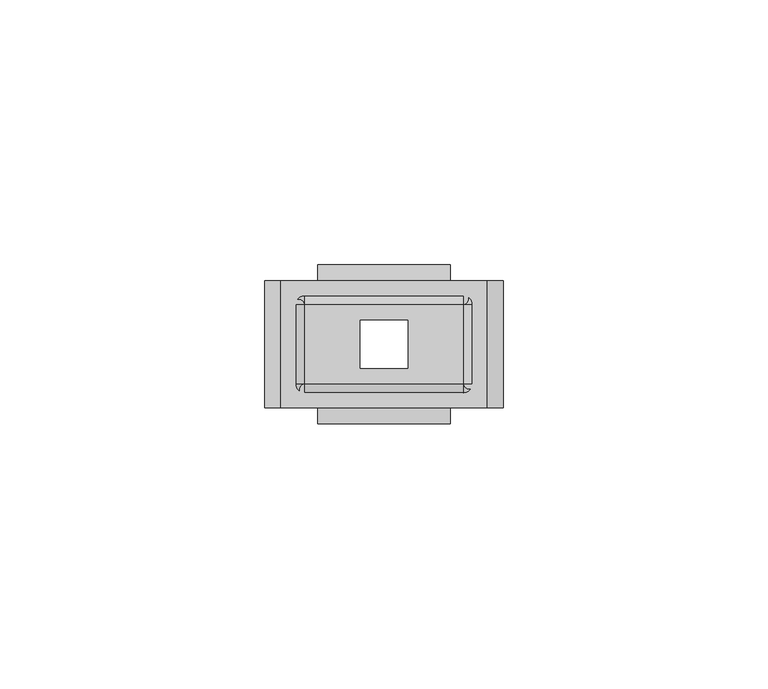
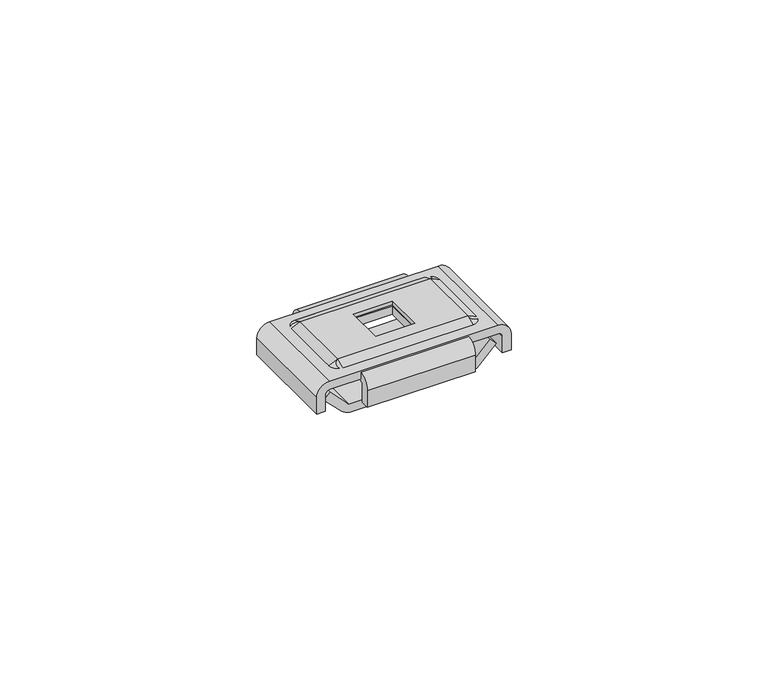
"""IFC4 building model written with IfcOpenShell, lengths in millimetres: cable carrier fitting geometry, BAKS_Mesh ceiling hanger_UKDSPC : UKDSCP."""

from ifc_helpers import new_model, si_unit, point, frame, frame_2d, origin, place, context, project, spatial, polyline, circle_curve, trimmed, segment, composite_curve, outline, extrude, source, transform, mapped, element, save
from ifc_brep_helpers import plane_surface, cylinder_surface, revolved_surface, spline_surface, advanced_brep


def cable_carrier_fitting_433d2681(model_context):
    return source(origin(), model_context, "Body", "SolidModel", [
        advanced_brep(
        [(-14.1715729, -10.5, -6.363961), (-18.554405, -10.5, -1.9811289), (-19.9681218, -10.5, -3.3948456), (-15.8781657, -10.5, -7.4848017), (-13.9928025, -10.5, -8.363961), (13.4626954, -10.5, -8.363961), (15.8781657, -10.5, -7.4848017), (19.9681218, -10.5, -3.3948456), (18.5543172, -10.5, -1.981041), (14.1713972, -10.5, -6.363961), (-14.1715729, 10.3284271, -6.363961), (14.1713972, 10.3284271, -6.363961), (18.5543172, 10.3284271, -1.981041), (19.9681218, 10.3284271, -3.3948456), (15.8781657, 10.3284271, -7.4848017), (13.4626954, 10.3284271, -8.363961), (-13.9928025, 10.3284271, -8.363961), (-15.8781657, 10.3284271, -7.4848017), (-19.9681218, 10.3284271, -3.3948456), (-18.554405, 10.3284271, -1.9811289), (4.5, 4.5, -8.363961), (-4.5, 4.5, -8.363961), (-4.5, -4.5, -8.363961), (4.5, -4.5, -8.363961), (-4.5, 4.5, -6.363961), (4.5, 4.5, -6.363961), (4.5, -4.5, -6.363961), (-4.5, -4.5, -6.363961)],
        [
            (0, 1),
            (1, 2),
            (2, 3),
            (3, 4, circle_curve(frame((-13.7277489, -10.5, -5.334385), z_axis=(0.0, -1.0, 0.0), x_axis=(-1.0, 0.0, 0.0)), 3.0411485)),
            (4, 5),
            (5, 6, circle_curve(frame((13.7277489, -10.5, -5.334385), z_axis=(0.0, -1.0, 0.0), x_axis=(1.0, 0.0, 0.0)), 3.0411485)),
            (6, 7),
            (7, 8),
            (8, 9),
            (9, 0),
            (10, 11),
            (11, 12),
            (12, 13),
            (13, 14),
            (14, 15, circle_curve(frame((13.7277489, 10.3284271, -5.334385), z_axis=(0.0, 1.0, 0.0), x_axis=(1.0, 0.0, 0.0)), 3.0411485)),
            (15, 16),
            (16, 17, circle_curve(frame((-13.7277489, 10.3284271, -5.334385), z_axis=(0.0, 1.0, 0.0), x_axis=(-1.0, 0.0, 0.0)), 3.0411485)),
            (17, 18),
            (18, 19),
            (19, 10),
            (0, 10),
            (19, 1),
            (18, 2),
            (17, 3),
            (16, 4),
            (15, 5),
            (20, 21),
            (21, 22),
            (22, 23),
            (23, 20),
            (14, 6),
            (13, 7),
            (12, 8),
            (11, 9),
            (24, 25),
            (25, 26),
            (26, 27),
            (27, 24),
            (20, 25),
            (24, 21),
            (27, 22),
            (26, 23),
        ],
        [
            plane_surface(frame((-18.5355339, -10.5, -2.0), z_axis=(0.0, -1.0000000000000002, 0.0), x_axis=(-0.7071067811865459, 0.0, 0.7071067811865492))),
            plane_surface(frame((-18.5355339, 10.3284271, -2.0), z_axis=(0.0, 1.0000000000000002, 0.0), x_axis=(0.7071067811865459, 0.0, -0.7071067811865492))),
            plane_surface(frame((-14.1715729, -10.5, -6.363961), z_axis=(0.7071067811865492, 0.0, 0.7071067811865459), x_axis=(0.0, 1.0, 0.0))),
            plane_surface(frame((-18.554405, -10.5, -1.9811289), z_axis=(-0.7071067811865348, 0.0, 0.7071067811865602), x_axis=(0.0, 1.0, 0.0))),
            plane_surface(frame((-19.9681218, -10.5, -3.3948456), z_axis=(-0.7071067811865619, 0.0, -0.7071067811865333), x_axis=(0.0, 1.0, 0.0))),
            cylinder_surface(frame((-13.7277489, 10.3284271, -5.334385), z_axis=(0.0, -1.0, 0.0), x_axis=(-1.0, 0.0, 0.0)), 3.0411485),
            plane_surface(frame((-13.9928025, -10.5, -8.363961), z_axis=(0.0, 0.0, -1.0), x_axis=(0.0, 1.0, 0.0))),
            cylinder_surface(frame((13.7277489, 10.3284271, -5.334385), z_axis=(0.0, -1.0, 0.0), x_axis=(1.0, 0.0, 0.0)), 3.0411485),
            plane_surface(frame((15.8781657, -10.5, -7.4848017), z_axis=(0.7071067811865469, 0.0, -0.7071067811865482), x_axis=(0.0, 1.0, 0.0))),
            plane_surface(frame((19.9681218, -10.5, -3.3948456), z_axis=(0.7071067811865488, 0.0, 0.7071067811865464), x_axis=(0.0, 1.0, 0.0))),
            plane_surface(frame((18.5543172, -10.5, -1.981041), z_axis=(-0.7071067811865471, 0.0, 0.7071067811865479), x_axis=(0.0, 1.0, 0.0))),
            plane_surface(frame((14.1713972, -10.5, -6.363961), z_axis=(0.0, 0.0, 1.0), x_axis=(0.0, 1.0, 0.0))),
            plane_surface(frame((4.5, 4.5, 10.0), z_axis=(0.0, -1.0, 0.0), x_axis=(0.0, 0.0, -1.0))),
            plane_surface(frame((-4.5, 4.5, 10.0), z_axis=(1.0, 0.0, 0.0), x_axis=(0.0, 0.0, -1.0))),
            plane_surface(frame((-4.5, -4.5, 10.0), z_axis=(0.0, 1.0, 0.0), x_axis=(0.0, 0.0, -1.0))),
            plane_surface(frame((4.5, -4.5, 10.0), z_axis=(-1.0, 0.0, 0.0), x_axis=(0.0, 0.0, -1.0))),
        ],
        [
            (0, [[1, 2, 3, 4, 5, 6, 7, 8, 9, 10]]),
            (1, [[11, 12, 13, 14, 15, 16, 17, 18, 19, 20]]),
            (2, [[-1, 21, -20, 22]]),
            (3, [[-2, -22, -19, 23]]),
            (4, [[-3, -23, -18, 24]]),
            (5, [[-4, -24, -17, 25]]),
            (6, [[-5, -25, -16, 26], [27, 28, 29, 30]]),
            (7, [[-6, -26, -15, 31]]),
            (8, [[-7, -31, -14, 32]]),
            (9, [[-8, -32, -13, 33]]),
            (10, [[-9, -33, -12, 34]]),
            (11, [[-10, -34, -11, -21], [35, 36, 37, 38]]),
            (12, [[39, -35, 40, -27]]),
            (13, [[-40, -38, 41, -28]]),
            (14, [[-41, -37, 42, -29]]),
            (15, [[-39, -30, -42, -36]]),
        ],
    ),
        advanced_brep(
        [(12.3284271, 5.5, -8.363961), (9.5, 8.3284271, -8.363961), (-9.5, 8.3284271, -8.363961), (-12.3284271, 5.5, -8.363961), (-12.3284271, -5.5, -8.363961), (-9.5, -8.3284271, -8.363961), (9.5, -8.3284271, -8.363961), (12.3284271, -5.5, -8.363961), (-4.5, 4.5, -8.363961), (4.5, 4.5, -8.363961), (4.5, -4.5, -8.363961), (-4.5, -4.5, -8.363961), (9.4715729, 5.4715729, -9.563961), (9.4715729, -5.4715729, -9.563961), (-9.4715729, -5.4715729, -9.563961), (-9.4715729, 5.4715729, -9.563961), (4.5, 4.5, -9.563961), (-4.5, 4.5, -9.563961), (-4.5, -4.5, -9.563961), (4.5, -4.5, -9.563961)],
        [
            (0, 1, circle_curve(frame((9.5, 5.5, -8.363961), z_axis=(0.0, 0.0, 1.0), x_axis=(1.0, 0.0, 0.0)), 2.8284271)),
            (1, 2),
            (2, 3, circle_curve(frame((-9.5, 5.5, -8.363961), z_axis=(0.0, 0.0, 1.0), x_axis=(1.0, 0.0, 0.0)), 2.8284271)),
            (3, 4),
            (4, 5, circle_curve(frame((-9.5, -5.5, -8.363961), z_axis=(0.0, 0.0, 1.0), x_axis=(1.0, 0.0, 0.0)), 2.8284271)),
            (5, 6),
            (6, 7, circle_curve(frame((9.5, -5.5, -8.363961), z_axis=(0.0, 0.0, 1.0), x_axis=(1.0, 0.0, 0.0)), 2.8284271)),
            (7, 0),
            (8, 9),
            (9, 10),
            (10, 11),
            (11, 8),
            (12, 13),
            (13, 14),
            (14, 15),
            (15, 12),
            (16, 17),
            (17, 18),
            (18, 19),
            (19, 16),
            (0, 12),
            (12, 1),
            (15, 2),
            (15, 3),
            (14, 4),
            (14, 5),
            (13, 6),
            (13, 7),
            (16, 9),
            (8, 17),
            (11, 18),
            (10, 19),
        ],
        [
            plane_surface(frame((0.0, 0.0, -8.363961), z_axis=(0.0, 0.0, 1.0), x_axis=(-1.0, 0.0, 0.0))),
            plane_surface(frame((0.0, 0.0, -9.563961), z_axis=(0.0, 0.0, -1.0), x_axis=(-1.0, 0.0, 0.0))),
            spline_surface(2, 1, [[(9.4715729, 5.4715729, -9.563961), (12.3284271, 5.5, -8.363961)], [(9.4715729, 5.4715729, -9.563961), (12.3284271, 8.3284271, -8.363961)], [(9.4715729, 5.4715729, -9.563961), (9.5, 8.3284271, -8.363961)]], [3, 3], [2, 2], [0.0, 1.0], [0.0, 1.0], weights=[[1.0, 1.0], [0.7071067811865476, 0.7071067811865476], [1.0, 1.0]]),
            plane_surface(frame((0.0, 5.4715729, -9.563961), z_axis=(0.0, 0.38726573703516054, -0.9219681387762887), x_axis=(-1.0, 0.0, 0.0))),
            spline_surface(2, 1, [[(-9.4715729, 5.4715729, -9.563961), (-9.5, 8.3284271, -8.363961)], [(-9.4715729, 5.4715729, -9.563961), (-12.3284271, 8.3284271, -8.363961)], [(-9.4715729, 5.4715729, -9.563961), (-12.3284271, 5.5, -8.363961)]], [3, 3], [2, 2], [0.0, 1.0], [0.0, 1.0], weights=[[1.0, 1.0], [0.7071067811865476, 0.7071067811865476], [1.0, 1.0]]),
            plane_surface(frame((-9.4715729, 0.0, -9.563961), z_axis=(-0.38726573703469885, 0.0, -0.9219681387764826), x_axis=(0.0, -1.0, 0.0))),
            spline_surface(2, 1, [[(-9.4715729, -5.4715729, -9.563961), (-12.3284271, -5.5, -8.363961)], [(-9.4715729, -5.4715729, -9.563961), (-12.3284271, -8.3284271, -8.363961)], [(-9.4715729, -5.4715729, -9.563961), (-9.5, -8.3284271, -8.363961)]], [3, 3], [2, 2], [0.0, 1.0], [0.0, 1.0], weights=[[1.0, 1.0], [0.7071067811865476, 0.7071067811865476], [1.0, 1.0]]),
            plane_surface(frame((0.0, -5.4715729, -9.563961), z_axis=(0.0, -0.3872657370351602, -0.9219681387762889), x_axis=(1.0, 0.0, 0.0))),
            spline_surface(2, 1, [[(9.4715729, -5.4715729, -9.563961), (9.5, -8.3284271, -8.363961)], [(9.4715729, -5.4715729, -9.563961), (12.3284271, -8.3284271, -8.363961)], [(9.4715729, -5.4715729, -9.563961), (12.3284271, -5.5, -8.363961)]], [3, 3], [2, 2], [0.0, 1.0], [0.0, 1.0], weights=[[1.0, 1.0], [0.7071067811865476, 0.7071067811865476], [1.0, 1.0]]),
            plane_surface(frame((9.4715729, 0.0, -9.563961), z_axis=(0.38726573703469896, 0.0, -0.9219681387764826), x_axis=(0.0, 1.0, 0.0))),
            plane_surface(frame((4.5, 4.5, 10.0), z_axis=(0.0, -1.0, 0.0), x_axis=(0.0, 0.0, -1.0))),
            plane_surface(frame((-4.5, 4.5, 10.0), z_axis=(1.0, 0.0, 0.0), x_axis=(0.0, 0.0, -1.0))),
            plane_surface(frame((-4.5, -4.5, 10.0), z_axis=(0.0, 1.0, 0.0), x_axis=(0.0, 0.0, -1.0))),
            plane_surface(frame((4.5, -4.5, 10.0), z_axis=(-1.0, 0.0, 0.0), x_axis=(0.0, 0.0, -1.0))),
        ],
        [
            (0, [[1, 2, 3, 4, 5, 6, 7, 8], [9, 10, 11, 12]]),
            (1, [[13, 14, 15, 16], [17, 18, 19, 20]]),
            (2, [[-1, 21, 22]]),
            (3, [[-2, -22, -16, 23]]),
            (4, [[-3, -23, 24]]),
            (5, [[-4, -24, -15, 25]]),
            (6, [[-5, -25, 26]]),
            (7, [[-6, -26, -14, 27]]),
            (8, [[-7, -27, 28]]),
            (9, [[-8, -28, -13, -21]]),
            (10, [[29, -9, 30, -17]]),
            (11, [[-30, -12, 31, -18]]),
            (12, [[-31, -11, 32, -19]]),
            (13, [[-29, -20, -32, -10]]),
        ],
    ),
        advanced_brep(
        [(-22.5, -12.0, -1.0), (-22.5, -12.0, -5.0), (-20.5, -12.0, -5.0), (-20.5, -12.0, -1.0), (-19.5, -12.0, 0.0), (19.5, -12.0, 0.0), (20.5, -12.0, -1.0), (20.5, -12.0, -5.0), (22.5, -12.0, -5.0), (22.5, -12.0, -1.0), (19.5, -12.0, 2.0), (-19.5, -12.0, 2.0), (-22.5, 12.0, -1.0), (-19.5, 12.0, 2.0), (19.5, 12.0, 2.0), (22.5, 12.0, -1.0), (22.5, 12.0, -5.0), (20.5, 12.0, -5.0), (20.5, 12.0, -1.0), (19.5, 12.0, 0.0), (-19.5, 12.0, 0.0), (-20.5, 12.0, -1.0), (-20.5, 12.0, -5.0), (-22.5, 12.0, -5.0), (4.5, 4.5, 0.0), (-4.5, 4.5, 0.0), (-4.5, -4.5, 0.0), (4.5, -4.5, 0.0), (-4.5, 4.5, 2.0), (4.5, 4.5, 2.0), (4.5, -4.5, 2.0), (-4.5, -4.5, 2.0)],
        [
            (0, 1),
            (1, 2),
            (2, 3),
            (3, 4, circle_curve(frame((-19.5, -12.0, -1.0), z_axis=(0.0, 1.0, 0.0), x_axis=(-1.0, 0.0, 0.0)), 1.0)),
            (4, 5),
            (5, 6, circle_curve(frame((19.5, -12.0, -1.0), z_axis=(0.0, 1.0, 0.0), x_axis=(1.0, 0.0, 0.0)), 1.0)),
            (6, 7),
            (7, 8),
            (8, 9),
            (9, 10, circle_curve(frame((19.5, -12.0, -1.0), z_axis=(0.0, -1.0, 0.0), x_axis=(-1.0, 0.0, 0.0)), 3.0)),
            (10, 11),
            (11, 0, circle_curve(frame((-19.5, -12.0, -1.0), z_axis=(0.0, -1.0, 0.0), x_axis=(1.0, 0.0, 0.0)), 3.0)),
            (12, 13, circle_curve(frame((-19.5, 12.0, -1.0), z_axis=(0.0, 1.0, 0.0), x_axis=(1.0, 0.0, 0.0)), 3.0)),
            (13, 14),
            (14, 15, circle_curve(frame((19.5, 12.0, -1.0), z_axis=(0.0, 1.0, 0.0), x_axis=(-1.0, 0.0, 0.0)), 3.0)),
            (15, 16),
            (16, 17),
            (17, 18),
            (18, 19, circle_curve(frame((19.5, 12.0, -1.0), z_axis=(0.0, -1.0, 0.0), x_axis=(1.0, 0.0, 0.0)), 1.0)),
            (19, 20),
            (20, 21, circle_curve(frame((-19.5, 12.0, -1.0), z_axis=(0.0, -1.0, 0.0), x_axis=(-1.0, 0.0, 0.0)), 1.0)),
            (21, 22),
            (22, 23),
            (23, 12),
            (0, 12),
            (23, 1),
            (22, 2),
            (21, 3),
            (20, 4),
            (19, 5),
            (24, 25),
            (25, 26),
            (26, 27),
            (27, 24),
            (18, 6),
            (17, 7),
            (16, 8),
            (15, 9),
            (14, 10),
            (13, 11),
            (28, 29),
            (29, 30),
            (30, 31),
            (31, 28),
            (24, 29),
            (28, 25),
            (31, 26),
            (30, 27),
        ],
        [
            plane_surface(frame((-22.5, -12.0, -5.0), z_axis=(0.0, -1.0, 0.0), x_axis=(0.0, 0.0, -1.0))),
            plane_surface(frame((-22.5, 12.0, -5.0), z_axis=(0.0, 1.0, 0.0), x_axis=(0.0, 0.0, 1.0))),
            plane_surface(frame((-22.5, -12.0, -1.0), z_axis=(-1.0, 0.0, 0.0), x_axis=(0.0, 1.0, 0.0))),
            plane_surface(frame((-22.5, -12.0, -5.0), z_axis=(0.0, 0.0, -1.0), x_axis=(0.0, 1.0, 0.0))),
            plane_surface(frame((-20.5, -12.0, -5.0), z_axis=(1.0, 0.0, 0.0), x_axis=(0.0, 1.0, 0.0))),
            revolved_surface(polyline([(-20.5, 12.0, -1.0), (-20.5, -12.0, -1.0)]), (-19.5, 12.0, -1.0), (0.0, 1.0, 0.0)),
            plane_surface(frame((-19.5, -12.0, 0.0), z_axis=(0.0, 0.0, -1.0), x_axis=(0.0, 1.0, 0.0))),
            revolved_surface(polyline([(20.5, 12.0, -1.0), (20.5, -12.0, -1.0)]), (19.5, 12.0, -1.0), (0.0, 1.0, 0.0)),
            plane_surface(frame((20.5, -12.0, -1.0), z_axis=(-1.0, 0.0, 0.0), x_axis=(0.0, 1.0, 0.0))),
            plane_surface(frame((20.5, -12.0, -5.0), z_axis=(0.0, 0.0, -1.0), x_axis=(0.0, 1.0, 0.0))),
            plane_surface(frame((22.5, -12.0, -5.0), z_axis=(1.0, 0.0, 0.0), x_axis=(0.0, 1.0, 0.0))),
            cylinder_surface(frame((19.5, 12.0, -1.0), z_axis=(0.0, -1.0, 0.0), x_axis=(-1.0, 0.0, 0.0)), 3.0),
            plane_surface(frame((19.5, -12.0, 2.0), z_axis=(0.0, 0.0, 1.0), x_axis=(0.0, 1.0, 0.0))),
            cylinder_surface(frame((-19.5, 12.0, -1.0), z_axis=(0.0, -1.0, 0.0), x_axis=(1.0, 0.0, 0.0)), 3.0),
            plane_surface(frame((4.5, 4.5, 10.0), z_axis=(0.0, -1.0, 0.0), x_axis=(0.0, 0.0, -1.0))),
            plane_surface(frame((-4.5, 4.5, 10.0), z_axis=(1.0, 0.0, 0.0), x_axis=(0.0, 0.0, -1.0))),
            plane_surface(frame((-4.5, -4.5, 10.0), z_axis=(0.0, 1.0, 0.0), x_axis=(0.0, 0.0, -1.0))),
            plane_surface(frame((4.5, -4.5, 10.0), z_axis=(-1.0, 0.0, 0.0), x_axis=(0.0, 0.0, -1.0))),
        ],
        [
            (0, [[1, 2, 3, 4, 5, 6, 7, 8, 9, 10, 11, 12]]),
            (1, [[13, 14, 15, 16, 17, 18, 19, 20, 21, 22, 23, 24]]),
            (2, [[-1, 25, -24, 26]]),
            (3, [[-2, -26, -23, 27]]),
            (4, [[-3, -27, -22, 28]]),
            (5, [[-4, -28, -21, 29]]),
            (6, [[-5, -29, -20, 30], [31, 32, 33, 34]]),
            (7, [[-6, -30, -19, 35]]),
            (8, [[-7, -35, -18, 36]]),
            (9, [[-8, -36, -17, 37]]),
            (10, [[-9, -37, -16, 38]]),
            (11, [[-10, -38, -15, 39]]),
            (12, [[-11, -39, -14, 40], [41, 42, 43, 44]]),
            (13, [[-12, -40, -13, -25]]),
            (14, [[45, -41, 46, -31]]),
            (15, [[-46, -44, 47, -32]]),
            (16, [[-47, -43, 48, -33]]),
            (17, [[-45, -34, -48, -42]]),
        ],
    ),
        advanced_brep(
        [(15.0, 7.5, 3.2), (-15.0, 7.5, 3.2), (-15.0, -7.5, 3.2), (15.0, -7.5, 3.2), (-4.5, 4.5, 3.2), (4.5, 4.5, 3.2), (4.5, -4.5, 3.2), (-4.5, -4.5, 3.2), (15.0, 10.3284271, 2.0), (17.8284271, 7.5, 2.0), (17.8284271, -7.5, 2.0), (15.0, -10.3284271, 2.0), (-15.0, -10.3284271, 2.0), (-17.8284271, -7.5, 2.0), (-17.8284271, 7.5, 2.0), (-15.0, 10.3284271, 2.0), (4.5, 4.5, 2.0), (-4.5, 4.5, 2.0), (-4.5, -4.5, 2.0), (4.5, -4.5, 2.0)],
        [
            (0, 1),
            (1, 2),
            (2, 3),
            (3, 0),
            (4, 5),
            (5, 6),
            (6, 7),
            (7, 4),
            (8, 9, circle_curve(frame((15.0, 7.5, 2.0), z_axis=(0.0, 0.0, -1.0), x_axis=(1.0, 0.0, 0.0)), 2.8284271)),
            (9, 10),
            (10, 11, circle_curve(frame((15.0, -7.5, 2.0), z_axis=(0.0, 0.0, -1.0), x_axis=(0.0, -1.0, 0.0)), 2.8284271)),
            (11, 12),
            (12, 13, circle_curve(frame((-15.0, -7.5, 2.0), z_axis=(0.0, 0.0, -1.0), x_axis=(-1.0, 0.0, 0.0)), 2.8284271)),
            (13, 14),
            (14, 15, circle_curve(frame((-15.0, 7.5, 2.0), z_axis=(0.0, 0.0, -1.0), x_axis=(0.0, 1.0, 0.0)), 2.8284271)),
            (15, 8),
            (16, 17),
            (17, 18),
            (18, 19),
            (19, 16),
            (0, 8),
            (15, 1),
            (14, 1),
            (13, 2),
            (12, 2),
            (11, 3),
            (10, 3),
            (9, 0),
            (16, 5),
            (4, 17),
            (7, 18),
            (6, 19),
        ],
        [
            plane_surface(frame((0.0, 0.0, 3.2), z_axis=(0.0, 0.0, 1.0), x_axis=(-1.0, 0.0, 0.0))),
            plane_surface(frame((0.0, 0.0, 2.0), z_axis=(0.0, 0.0, -1.0), x_axis=(-1.0, 0.0, 0.0))),
            plane_surface(frame((0.0, 10.3284271, 2.0), z_axis=(0.0, 0.39056673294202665, 0.9205746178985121), x_axis=(-1.0, 0.0, 0.0))),
            revolved_surface(polyline([(-15.0, 7.5, 3.2), (-15.0, 10.3284271, 2.0)]), (-15.0, 7.5, 3.2), (0.0, 0.0, -1.0)),
            plane_surface(frame((-17.8284271, 0.0, 2.0), z_axis=(-0.39056673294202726, 0.0, 0.920574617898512), x_axis=(0.0, -1.0, 0.0))),
            revolved_surface(polyline([(-15.0, -7.5, 3.2), (-17.8284271, -7.5, 2.0)]), (-15.0, -7.5, 3.2), (0.0, 0.0, -1.0)),
            plane_surface(frame((0.0, -10.3284271, 2.0), z_axis=(0.0, -0.3905667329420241, 0.9205746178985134), x_axis=(1.0, 0.0, 0.0))),
            revolved_surface(polyline([(15.0, -7.5, 3.2), (15.0, -10.3284271, 2.0)]), (15.0, -7.5, 3.2), (0.0, 0.0, -1.0)),
            plane_surface(frame((17.8284271, 0.0, 2.0), z_axis=(0.3905667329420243, 0.0, 0.9205746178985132), x_axis=(0.0, 1.0, 0.0))),
            revolved_surface(polyline([(15.0, 7.5, 3.2), (17.8284271, 7.5, 2.0)]), (15.0, 7.5, 3.2), (0.0, 0.0, -1.0)),
            plane_surface(frame((4.5, 4.5, 10.0), z_axis=(0.0, -1.0, 0.0), x_axis=(0.0, 0.0, -1.0))),
            plane_surface(frame((-4.5, 4.5, 10.0), z_axis=(1.0, 0.0, 0.0), x_axis=(0.0, 0.0, -1.0))),
            plane_surface(frame((-4.5, -4.5, 10.0), z_axis=(0.0, 1.0, 0.0), x_axis=(0.0, 0.0, -1.0))),
            plane_surface(frame((4.5, -4.5, 10.0), z_axis=(-1.0, 0.0, 0.0), x_axis=(0.0, 0.0, -1.0))),
        ],
        [
            (0, [[1, 2, 3, 4], [5, 6, 7, 8]]),
            (1, [[9, 10, 11, 12, 13, 14, 15, 16], [17, 18, 19, 20]]),
            (2, [[-1, 21, -16, 22]]),
            (3, [[-15, 23, -22]]),
            (4, [[-2, -23, -14, 24]]),
            (5, [[-13, 25, -24]]),
            (6, [[-3, -25, -12, 26]]),
            (7, [[-11, 27, -26]]),
            (8, [[-4, -27, -10, 28]]),
            (9, [[-9, -21, -28]]),
            (10, [[29, -5, 30, -17]]),
            (11, [[-30, -8, 31, -18]]),
            (12, [[-31, -7, 32, -19]]),
            (13, [[-29, -20, -32, -6]]),
        ],
    ),
        extrude(outline(composite_curve([segment(trimmed(circle_curve(frame_2d((-12.0, -1.0)), 3.0), [point((-15.0, -1.0))], [point((-12.0, 2.0))], False, "CARTESIAN"), True, "CONTINUOUS"), segment(polyline([(-12.0, 2.0), (-12.0, 0.0)]), True, "CONTINUOUS"), segment(trimmed(circle_curve(frame_2d((-12.0, -1.0)), 1.0), [point((-12.0, 0.0))], [point((-13.0, -1.0))], True, "CARTESIAN"), True, "CONTINUOUS"), segment(polyline([(-13.0, -1.0), (-13.0, -5.0), (-15.0, -5.0), (-15.0, -1.0)]), True, "CONTINUOUS")], self_intersect=False)), frame((-12.5, 0.0, 0.0), z_axis=(1.0, 0.0, 0.0), x_axis=(0.0, 1.0, 0.0)), (0.0, 0.0, 1.0), 25.0),
        extrude(outline(composite_curve([segment(polyline([(15.0, -1.0), (15.0, -5.0), (13.0, -5.0), (13.0, -1.0)]), True, "CONTINUOUS"), segment(trimmed(circle_curve(frame_2d((12.0, -1.0)), 1.0), [point((13.0, -1.0))], [point((12.0, 0.0))], True, "CARTESIAN"), True, "CONTINUOUS"), segment(polyline([(12.0, 0.0), (12.0, 2.0)]), True, "CONTINUOUS"), segment(trimmed(circle_curve(frame_2d((12.0, -1.0)), 3.0), [point((12.0, 2.0))], [point((15.0, -1.0))], False, "CARTESIAN"), True, "CONTINUOUS")], self_intersect=False)), frame((-12.5, 0.0, 0.0), z_axis=(1.0, 0.0, 0.0), x_axis=(0.0, 1.0, 0.0)), (0.0, 0.0, 1.0), 25.0),
    ])


if __name__ == "__main__":
    model = new_model("IFC4")
    model_context = context("Model", 3, world=origin())
    ifc_project = project(units=[si_unit("LENGTHUNIT", "METRE", prefix="MILLI")], contexts=[model_context])
    site = spatial("IfcSite", under=ifc_project)
    building = spatial("IfcBuilding", under=site)
    placement = place(None, origin())
    cable_carrier_fitting_shape = cable_carrier_fitting_433d2681(model_context)
    element("IfcCableCarrierFitting", 1, ObjectType="BAKS_Mesh ceiling hanger_UKDSPC : UKDSCP", at=placement, inside=building, context=model_context, shape_type="MappedRepresentation", body=[
        mapped(cable_carrier_fitting_shape, transform((0.0, 0.0, 0.0), x_axis=(1.0, 0.0, 0.0), y_axis=(0.0, 1.0, 0.0), z_axis=(0.0, 0.0, 1.0))),
    ])
    save(model, "model.ifc")
